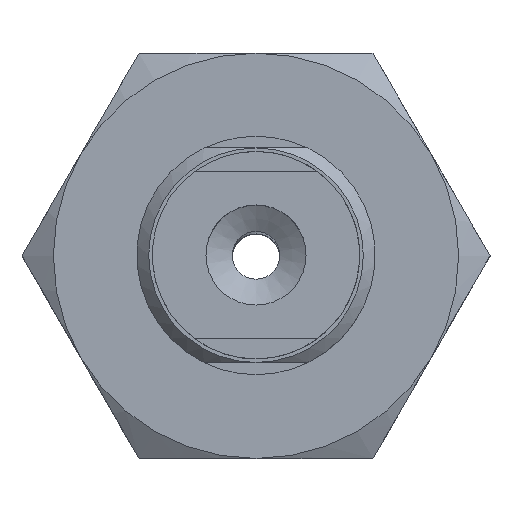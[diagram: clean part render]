
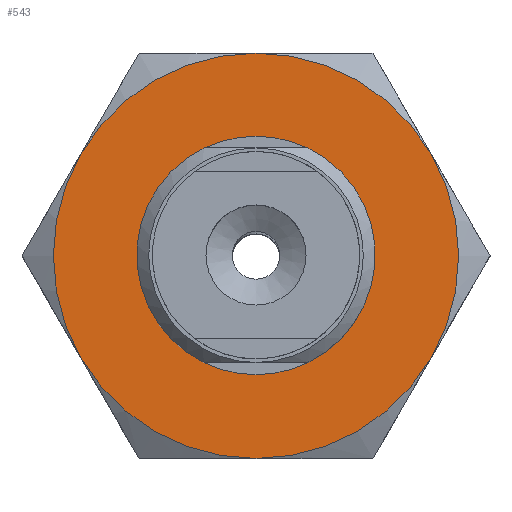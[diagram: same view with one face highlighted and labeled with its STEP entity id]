
A CAD part, top view. The second image highlights one B-rep face of the part: STEP entity #543.
In plain terms, the highlighted planar face has unit normal (0, 0, 1).
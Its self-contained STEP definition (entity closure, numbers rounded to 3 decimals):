
#543=ADVANCED_FACE('',(#756,#757),#758,.T.);
#756=FACE_BOUND('',#1136,.T.);
#757=FACE_OUTER_BOUND('',#1137,.T.);
#758=PLANE('',#1138);
#1136=EDGE_LOOP('',(#1676));
#1137=EDGE_LOOP('',(#1677,#1678,#1679,#1680,#1681,#1682));
#1138=AXIS2_PLACEMENT_3D('',#1683,#1684,#1685);
#1676=ORIENTED_EDGE('',*,*,#2636,.F.);
#1677=ORIENTED_EDGE('',*,*,#2637,.F.);
#1678=ORIENTED_EDGE('',*,*,#2630,.F.);
#1679=ORIENTED_EDGE('',*,*,#2606,.F.);
#1680=ORIENTED_EDGE('',*,*,#2609,.F.);
#1681=ORIENTED_EDGE('',*,*,#2638,.F.);
#1682=ORIENTED_EDGE('',*,*,#2639,.F.);
#1683=CARTESIAN_POINT('',(-9.815,-8.5,4.0));
#1684=DIRECTION('',(0.0,0.0,1.0));
#1685=DIRECTION('',(1.0,0.0,0.0));
#2606=EDGE_CURVE('',#2951,#2952,#2953,.T.);
#2609=EDGE_CURVE('',#2957,#2951,#2958,.T.);
#2630=EDGE_CURVE('',#2952,#2992,#2993,.T.);
#2636=EDGE_CURVE('',#3001,#3001,#3002,.T.);
#2637=EDGE_CURVE('',#2992,#3003,#3004,.T.);
#2638=EDGE_CURVE('',#3005,#2957,#3006,.T.);
#2639=EDGE_CURVE('',#3003,#3005,#3007,.T.);
#2951=VERTEX_POINT('',#3589);
#2952=VERTEX_POINT('',#3590);
#2953=CIRCLE('',#3591,8.5);
#2957=VERTEX_POINT('',#3603);
#2958=CIRCLE('',#3604,8.5);
#2992=VERTEX_POINT('',#3684);
#2993=CIRCLE('',#3685,8.5);
#3001=VERTEX_POINT('',#3710);
#3002=CIRCLE('',#3711,4.5);
#3003=VERTEX_POINT('',#3712);
#3004=CIRCLE('',#3713,8.5);
#3005=VERTEX_POINT('',#3714);
#3006=CIRCLE('',#3715,8.5);
#3007=CIRCLE('',#3716,8.5);
#3589=CARTESIAN_POINT('',(7.361,4.25,4.0));
#3590=CARTESIAN_POINT('',(7.361,-4.25,4.0));
#3591=AXIS2_PLACEMENT_3D('',#4359,#4360,#4361);
#3603=CARTESIAN_POINT('',(0.,8.5,4.0));
#3604=AXIS2_PLACEMENT_3D('',#4362,#4363,#4364);
#3684=CARTESIAN_POINT('',(0.,-8.5,4.0));
#3685=AXIS2_PLACEMENT_3D('',#4388,#4389,#4390);
#3710=CARTESIAN_POINT('',(0.0,-4.5,4.0));
#3711=AXIS2_PLACEMENT_3D('',#4392,#4393,#4394);
#3712=CARTESIAN_POINT('',(-7.361,-4.25,4.0));
#3713=AXIS2_PLACEMENT_3D('',#4395,#4396,#4397);
#3714=CARTESIAN_POINT('',(-7.361,4.25,4.0));
#3715=AXIS2_PLACEMENT_3D('',#4398,#4399,#4400);
#3716=AXIS2_PLACEMENT_3D('',#4401,#4402,#4403);
#4359=CARTESIAN_POINT('',(0.,0.,4.0));
#4360=DIRECTION('',(0.,0.,-1.0));
#4361=DIRECTION('',(0.866,0.5,0.));
#4362=CARTESIAN_POINT('',(0.,0.,4.0));
#4363=DIRECTION('',(0.,0.,-1.0));
#4364=DIRECTION('',(0.866,0.5,0.));
#4388=CARTESIAN_POINT('',(0.,0.,4.0));
#4389=DIRECTION('',(0.,0.,-1.0));
#4390=DIRECTION('',(0.866,0.5,0.));
#4392=CARTESIAN_POINT('',(0.0,0.0,4.0));
#4393=DIRECTION('',(0.0,0.,1.0));
#4394=DIRECTION('',(0.0,-1.0,0.));
#4395=CARTESIAN_POINT('',(0.,0.,4.0));
#4396=DIRECTION('',(0.,0.,-1.0));
#4397=DIRECTION('',(0.866,0.5,0.));
#4398=CARTESIAN_POINT('',(0.,0.,4.0));
#4399=DIRECTION('',(0.,0.,-1.0));
#4400=DIRECTION('',(0.866,0.5,0.));
#4401=CARTESIAN_POINT('',(0.,0.,4.0));
#4402=DIRECTION('',(0.,0.,-1.0));
#4403=DIRECTION('',(0.866,0.5,0.));
